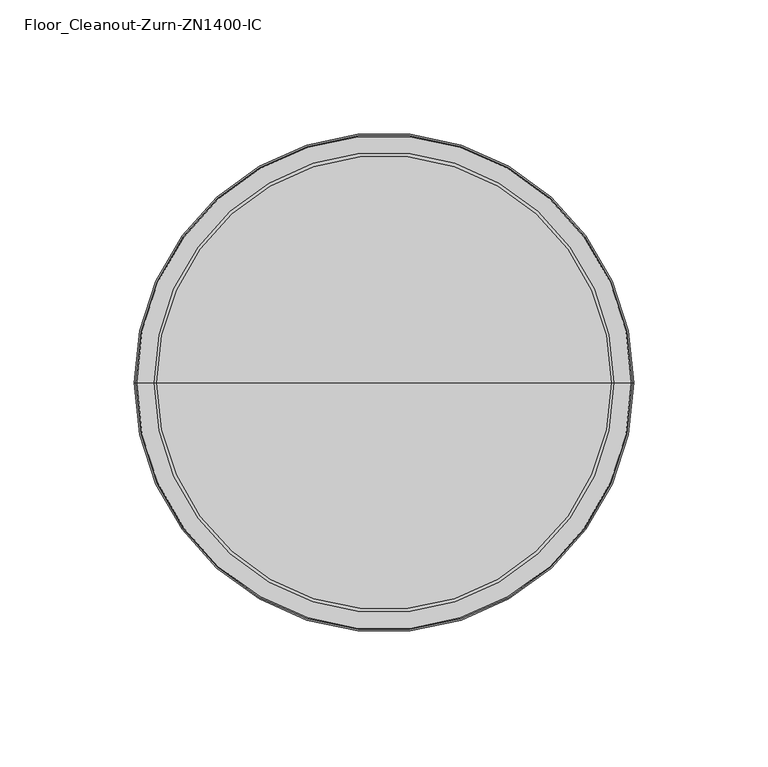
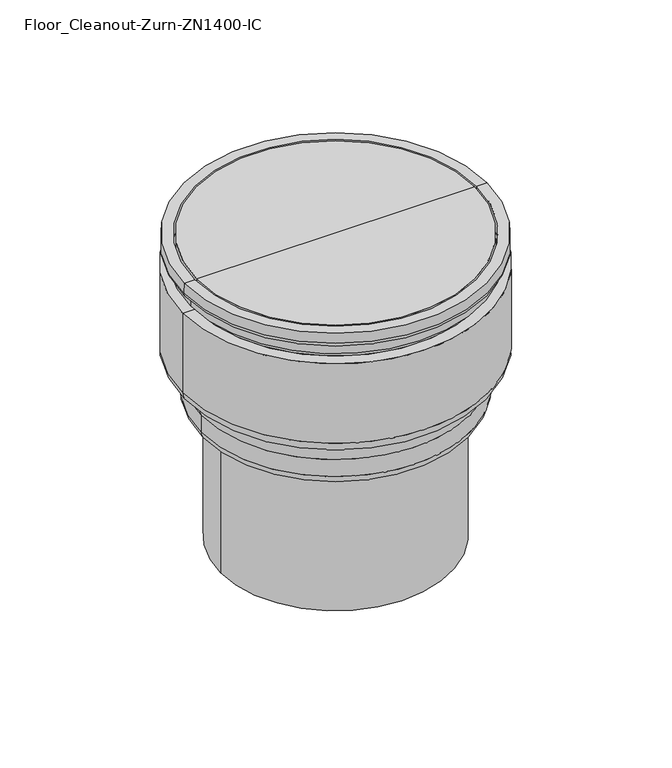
"""IFC4 building model written with IfcOpenShell, lengths in millimetres: flow terminal geometry."""

from ifc_helpers import new_model, si_unit, point, frame, origin, origin_with_axes, place, context, project, spatial, polyline, circle_curve, ellipse_curve, trimmed, source, transform, mapped, element, save
from ifc_brep_helpers import plane_surface, cylinder_surface, revolved_surface, advanced_brep


def floor_cleanout_zurn_zn1400_ic_d83c3ab9(model_context):
    return source(origin(), model_context, "Body", "AdvancedBrep", [
        advanced_brep(
        [(0.0, 0.0, 19.05), (84.46135, 0.0, 19.05), (-84.46135, 0.0, 19.05), (-84.46135, 0.0, 9.525), (84.46135, 0.0, 9.525), (0.0, 0.0, 9.525)],
        [
            (0, 1),
            (1, 2, circle_curve(frame((0.0, 0.0, 19.05), z_axis=(0.0, 0.0, 1.0), x_axis=(1.0, 0.0, 0.0)), 84.46135)),
            (2, 0),
            (2, 1, circle_curve(frame((0.0, 0.0, 19.05), z_axis=(0.0, 0.0, 1.0), x_axis=(1.0, 0.0, 0.0)), 84.46135)),
            (3, 4, circle_curve(frame((0.0, 0.0, 9.525), z_axis=(0.0, 0.0, -1.0), x_axis=(1.0, 0.0, 0.0)), 84.46135)),
            (4, 5),
            (5, 3),
            (4, 3, circle_curve(frame((0.0, 0.0, 9.525), z_axis=(0.0, 0.0, -1.0), x_axis=(1.0, 0.0, 0.0)), 84.46135)),
            (1, 4),
            (3, 2),
        ],
        [
            plane_surface(frame((0.0, 0.0, 19.05), z_axis=(0.0, 0.0, 1.0), x_axis=(1.0, 0.0, 0.0))),
            plane_surface(frame((0.0, 0.0, 9.525), z_axis=(0.0, 0.0, -1.0), x_axis=(1.0, 0.0, 0.0))),
            cylinder_surface(frame((0.0, 0.0, 19.05), z_axis=(0.0, 0.0, 1.0), x_axis=(1.0, 0.0, 0.0)), 84.46135),
        ],
        [
            (0, [[1, 2, 3]]),
            (0, [[-3, 4, -1]]),
            (1, [[5, 6, 7]]),
            (1, [[8, -7, -6]]),
            (2, [[-2, 9, -5, 10]]),
            (2, [[-4, -10, -8, -9]]),
        ],
    ),
        advanced_brep(
        [(-92.075, 0.0, 19.05), (92.075, 0.0, 19.05), (92.3358599, 0.0, 12.8331054), (-92.3358599, 0.0, 12.8331054), (-85.73135, 0.0, 19.05), (85.73135, 0.0, 19.05), (-69.85, 0.0, -174.625), (69.85, 0.0, -174.625), (0.0, 0.0, -174.625), (-69.85, 0.0, -86.176276), (69.85, 0.0, -86.176276), (-81.8556667, 0.0, -80.1696704), (81.8556667, 0.0, -80.1696704), (76.99375, 0.0, -86.176276), (-76.99375, 0.0, -86.176276), (-81.8556667, 0.0, -69.246216), (81.8556667, 0.0, -69.246216), (-85.250259, 0.0, -59.0685518), (85.250259, 0.0, -59.0685518), (-92.86875, 0.0, -51.1374649), (92.86875, 0.0, -51.1374649), (-92.86875, 0.0, 0.0), (92.86875, 0.0, 0.0), (-85.73135, 0.0, 0.0), (85.73135, 0.0, 0.0), (-85.73135, 0.0, 3.175), (85.73135, 0.0, 3.175), (-88.10625, 0.0, 3.175), (88.10625, 0.0, 3.175), (-88.10625, 0.0, 9.525), (88.10625, 0.0, 9.525), (-89.1636513, 0.0, 9.525), (89.1636513, 0.0, 9.525), (-85.73135, 0.0, 9.525), (85.73135, 0.0, 9.525), (0.0, 0.0, 9.525)],
        [
            (0, 1, circle_curve(frame((0.0, 0.0, 19.05), z_axis=(0.0, 0.0, -1.0), x_axis=(1.0, 0.0, 0.0)), 92.075)),
            (1, 2),
            (2, 3, circle_curve(frame((0.0, 0.0, 12.8331054), z_axis=(0.0, 0.0, 1.0), x_axis=(1.0, 0.0, 0.0)), 92.3358599)),
            (3, 0),
            (1, 0, circle_curve(frame((0.0, 0.0, 19.05), z_axis=(0.0, 0.0, -1.0), x_axis=(1.0, 0.0, 0.0)), 92.075)),
            (3, 2, circle_curve(frame((0.0, 0.0, 12.8331054), z_axis=(0.0, 0.0, 1.0), x_axis=(1.0, 0.0, 0.0)), 92.3358599)),
            (4, 5, circle_curve(frame((0.0, 0.0, 19.05), z_axis=(0.0, 0.0, -1.0), x_axis=(1.0, 0.0, 0.0)), 85.73135)),
            (5, 1),
            (0, 4),
            (5, 4, circle_curve(frame((0.0, 0.0, 19.05), z_axis=(0.0, 0.0, -1.0), x_axis=(1.0, 0.0, 0.0)), 85.73135)),
            (6, 7, circle_curve(frame((0.0, 0.0, -174.625), z_axis=(0.0, 0.0, -1.0), x_axis=(1.0, 0.0, 0.0)), 69.85)),
            (7, 8),
            (8, 6),
            (7, 6, circle_curve(frame((0.0, 0.0, -174.625), z_axis=(0.0, 0.0, -1.0), x_axis=(1.0, 0.0, 0.0)), 69.85)),
            (9, 10, circle_curve(frame((0.0, 0.0, -86.176276), z_axis=(0.0, 0.0, -1.0), x_axis=(1.0, 0.0, 0.0)), 69.85)),
            (10, 7),
            (6, 9),
            (10, 9, circle_curve(frame((0.0, 0.0, -86.176276), z_axis=(0.0, 0.0, -1.0), x_axis=(1.0, 0.0, 0.0)), 69.85)),
            (11, 12, circle_curve(frame((0.0, 0.0, -80.1696704), z_axis=(0.0, 0.0, -1.0), x_axis=(1.0, 0.0, 0.0)), 81.8556667)),
            (12, 13, circle_curve(frame((75.5130094, 0.0, -80.0067333), z_axis=(0.0, 1.0, 0.0), x_axis=(1.0, 0.0, 0.0)), 6.3447498)),
            (13, 14, circle_curve(frame((0.0, 0.0, -86.176276), z_axis=(0.0, 0.0, 1.0), x_axis=(1.0, 0.0, 0.0)), 76.99375)),
            (14, 11, circle_curve(frame((-75.5130094, 0.0, -80.0067333), z_axis=(0.0, 1.0, 0.0), x_axis=(-1.0, 0.0, 0.0)), 6.3447498)),
            (12, 11, circle_curve(frame((0.0, 0.0, -80.1696704), z_axis=(0.0, 0.0, -1.0), x_axis=(1.0, 0.0, 0.0)), 81.8556667)),
            (14, 13, circle_curve(frame((0.0, 0.0, -86.176276), z_axis=(0.0, 0.0, 1.0), x_axis=(1.0, 0.0, 0.0)), 76.99375)),
            (15, 16, circle_curve(frame((0.0, 0.0, -69.246216), z_axis=(0.0, 0.0, -1.0), x_axis=(1.0, 0.0, 0.0)), 81.8556667)),
            (16, 12),
            (11, 15),
            (16, 15, circle_curve(frame((0.0, 0.0, -69.246216), z_axis=(0.0, 0.0, -1.0), x_axis=(1.0, 0.0, 0.0)), 81.8556667)),
            (17, 18, circle_curve(frame((0.0, 0.0, -59.0685518), z_axis=(0.0, 0.0, -1.0), x_axis=(1.0, 0.0, 0.0)), 85.250259)),
            (18, 16),
            (15, 17),
            (18, 17, circle_curve(frame((0.0, 0.0, -59.0685518), z_axis=(0.0, 0.0, -1.0), x_axis=(1.0, 0.0, 0.0)), 85.250259)),
            (19, 20, circle_curve(frame((0.0, 0.0, -51.1374649), z_axis=(0.0, 0.0, -1.0), x_axis=(1.0, 0.0, 0.0)), 92.86875)),
            (20, 18, circle_curve(frame((84.93125, 0.0, -51.1374649), z_axis=(0.0, 1.0, 0.0), x_axis=(1.0, 0.0, 0.0)), 7.9375)),
            (17, 19, circle_curve(frame((-84.93125, 0.0, -51.1374649), z_axis=(0.0, 1.0, 0.0), x_axis=(-1.0, 0.0, 0.0)), 7.9375)),
            (20, 19, circle_curve(frame((0.0, 0.0, -51.1374649), z_axis=(0.0, 0.0, -1.0), x_axis=(1.0, 0.0, 0.0)), 92.86875)),
            (21, 22, circle_curve(frame((0.0, 0.0, 0.0), z_axis=(0.0, 0.0, -1.0), x_axis=(1.0, 0.0, 0.0)), 92.86875)),
            (22, 20),
            (19, 21),
            (22, 21, circle_curve(frame((0.0, 0.0, 0.0), z_axis=(0.0, 0.0, -1.0), x_axis=(1.0, 0.0, 0.0)), 92.86875)),
            (23, 24, circle_curve(frame((0.0, 0.0, 0.0), z_axis=(0.0, 0.0, -1.0), x_axis=(1.0, 0.0, 0.0)), 85.73135)),
            (24, 22),
            (21, 23),
            (24, 23, circle_curve(frame((0.0, 0.0, 0.0), z_axis=(0.0, 0.0, -1.0), x_axis=(1.0, 0.0, 0.0)), 85.73135)),
            (25, 26, circle_curve(frame((0.0, 0.0, 3.175), z_axis=(0.0, 0.0, -1.0), x_axis=(1.0, 0.0, 0.0)), 85.73135)),
            (26, 24),
            (23, 25),
            (26, 25, circle_curve(frame((0.0, 0.0, 3.175), z_axis=(0.0, 0.0, -1.0), x_axis=(1.0, 0.0, 0.0)), 85.73135)),
            (27, 28, circle_curve(frame((0.0, 0.0, 3.175), z_axis=(0.0, 0.0, -1.0), x_axis=(1.0, 0.0, 0.0)), 88.10625)),
            (28, 26),
            (25, 27),
            (28, 27, circle_curve(frame((0.0, 0.0, 3.175), z_axis=(0.0, 0.0, -1.0), x_axis=(1.0, 0.0, 0.0)), 88.10625)),
            (29, 30, circle_curve(frame((0.0, 0.0, 9.525), z_axis=(0.0, 0.0, -1.0), x_axis=(1.0, 0.0, 0.0)), 88.10625)),
            (30, 28),
            (27, 29),
            (30, 29, circle_curve(frame((0.0, 0.0, 9.525), z_axis=(0.0, 0.0, -1.0), x_axis=(1.0, 0.0, 0.0)), 88.10625)),
            (31, 32, circle_curve(frame((0.0, 0.0, 9.525), z_axis=(0.0, 0.0, -1.0), x_axis=(1.0, 0.0, 0.0)), 89.1636513)),
            (32, 30),
            (29, 31),
            (32, 31, circle_curve(frame((0.0, 0.0, 9.525), z_axis=(0.0, 0.0, -1.0), x_axis=(1.0, 0.0, 0.0)), 89.1636513)),
            (2, 32, circle_curve(frame((89.1636513, 0.0, 12.7), z_axis=(0.0, 1.0, 0.0), x_axis=(1.0, 0.0, 0.0)), 3.175)),
            (31, 3, circle_curve(frame((-89.1636513, 0.0, 12.7), z_axis=(0.0, 1.0, 0.0), x_axis=(-1.0, 0.0, 0.0)), 3.175)),
            (13, 10),
            (9, 14),
            (33, 34, circle_curve(frame((0.0, 0.0, 9.525), z_axis=(0.0, 0.0, -1.0), x_axis=(1.0, 0.0, 0.0)), 85.73135)),
            (34, 5),
            (4, 33),
            (34, 33, circle_curve(frame((0.0, 0.0, 9.525), z_axis=(0.0, 0.0, -1.0), x_axis=(1.0, 0.0, 0.0)), 85.73135)),
            (35, 34),
            (33, 35),
        ],
        [
            revolved_surface(polyline([(92.3358599, 0.0, 12.8331054), (92.075, 0.0, 19.05)]), (0.0, 0.0, 2307.1347694), (0.0, 0.0, 1.0)),
            plane_surface(frame((0.0, 0.0, 19.05), z_axis=(0.0, 0.0, 1.0), x_axis=(1.0, 0.0, 0.0))),
            plane_surface(frame((0.0, 0.0, -174.625), z_axis=(0.0, 0.0, -1.0), x_axis=(1.0, 0.0, 0.0))),
            cylinder_surface(frame((0.0, 0.0, 2307.1347694), z_axis=(0.0, 0.0, 1.0), x_axis=(1.0, 0.0, 0.0)), 69.85),
            revolved_surface(trimmed(ellipse_curve(frame((75.5130094, 0.0, -80.0067333), z_axis=(0.0, -1.0, 0.0), x_axis=(1.0, 0.0, 0.0)), 6.3447498, 6.3447498), [point((76.99375, 0.0, -86.176276))], [point((81.8556667, 0.0, -80.1696704))], True, "CARTESIAN"), (0.0, 0.0, 2307.1347694), (0.0, 0.0, 1.0)),
            cylinder_surface(frame((0.0, 0.0, 2307.1347694), z_axis=(0.0, 0.0, 1.0), x_axis=(1.0, 0.0, 0.0)), 81.8556667),
            revolved_surface(polyline([(81.8556667, 0.0, -69.246216), (85.250259, 0.0, -59.0685518)]), (0.0, 0.0, 2307.1347694), (0.0, 0.0, 1.0)),
            revolved_surface(trimmed(ellipse_curve(frame((84.93125, 0.0, -51.1374649), z_axis=(0.0, -1.0, 0.0), x_axis=(1.0, 0.0, 0.0)), 7.9375, 7.9375), [point((85.250259, 0.0, -59.0685518))], [point((92.86875, 0.0, -51.1374649))], True, "CARTESIAN"), (0.0, 0.0, 2307.1347694), (0.0, 0.0, 1.0)),
            cylinder_surface(frame((0.0, 0.0, 2307.1347694), z_axis=(0.0, 0.0, 1.0), x_axis=(1.0, 0.0, 0.0)), 92.86875),
            plane_surface(origin_with_axes()),
            cylinder_surface(frame((0.0, 0.0, 2307.1347694), z_axis=(0.0, 0.0, 1.0), x_axis=(1.0, 0.0, 0.0)), 85.73135),
            plane_surface(frame((0.0, 0.0, 3.175), z_axis=(0.0, 0.0, -1.0), x_axis=(1.0, 0.0, 0.0))),
            cylinder_surface(frame((0.0, 0.0, 2307.1347694), z_axis=(0.0, 0.0, 1.0), x_axis=(1.0, 0.0, 0.0)), 88.10625),
            plane_surface(frame((0.0, 0.0, 9.525), z_axis=(0.0, 0.0, -1.0), x_axis=(1.0, 0.0, 0.0))),
            revolved_surface(trimmed(ellipse_curve(frame((89.1636513, 0.0, 12.7), z_axis=(0.0, -1.0, 0.0), x_axis=(1.0, 0.0, 0.0)), 3.175, 3.175), [point((89.1636513, 0.0, 9.525))], [point((92.3358599, 0.0, 12.8331054))], True, "CARTESIAN"), (0.0, 0.0, 2307.1347694), (0.0, 0.0, 1.0)),
            plane_surface(frame((0.0, 0.0, -86.176276), z_axis=(0.0, 0.0, -1.0), x_axis=(1.0, 0.0, 0.0))),
            revolved_surface(polyline([(85.73135, 0.0, 19.050000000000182), (85.73135, 0.0, 9.525000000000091)]), (0.0, 0.0, 2307.1347694), (0.0, 0.0, 1.0)),
            plane_surface(frame((0.0, 0.0, 9.525), z_axis=(0.0, 0.0, 1.0), x_axis=(1.0, 0.0, 0.0))),
        ],
        [
            (0, [[1, 2, 3, 4]]),
            (0, [[5, -4, 6, -2]]),
            (1, [[7, 8, -1, 9]]),
            (1, [[10, -9, -5, -8]]),
            (2, [[11, 12, 13]]),
            (2, [[14, -13, -12]]),
            (3, [[15, 16, -11, 17]]),
            (3, [[18, -17, -14, -16]]),
            (4, [[19, 20, 21, 22]]),
            (4, [[23, -22, 24, -20]]),
            (5, [[25, 26, -19, 27]]),
            (5, [[28, -27, -23, -26]]),
            (6, [[29, 30, -25, 31]]),
            (6, [[32, -31, -28, -30]]),
            (7, [[33, 34, -29, 35]]),
            (7, [[36, -35, -32, -34]]),
            (8, [[37, 38, -33, 39]]),
            (8, [[40, -39, -36, -38]]),
            (9, [[41, 42, -37, 43]]),
            (9, [[44, -43, -40, -42]]),
            (10, [[45, 46, -41, 47]]),
            (10, [[48, -47, -44, -46]]),
            (11, [[49, 50, -45, 51]]),
            (11, [[52, -51, -48, -50]]),
            (12, [[53, 54, -49, 55]]),
            (12, [[56, -55, -52, -54]]),
            (13, [[57, 58, -53, 59]]),
            (13, [[60, -59, -56, -58]]),
            (14, [[-3, 61, -57, 62]]),
            (14, [[-6, -62, -60, -61]]),
            (15, [[-21, 63, -15, 64]]),
            (15, [[-24, -64, -18, -63]]),
            (16, [[65, 66, -7, 67]]),
            (16, [[68, -67, -10, -66]]),
            (17, [[69, -65, 70]]),
            (17, [[-70, -68, -69]]),
        ],
    ),
    ])


if __name__ == "__main__":
    model = new_model("IFC4")
    model_context = context("Model", 3, world=origin())
    ifc_project = project(units=[si_unit("LENGTHUNIT", "METRE", prefix="MILLI")], contexts=[model_context])
    site = spatial("IfcSite", under=ifc_project)
    building = spatial("IfcBuilding", under=site)
    placement = place(None, origin())
    floor_cleanout_zurn_zn1400_ic_shape = floor_cleanout_zurn_zn1400_ic_d83c3ab9(model_context)
    element("IfcFlowTerminal", 1, ObjectType="Floor_Cleanout-Zurn-ZN1400-IC : 7-1/4\" x 9-1/8\" x D4\"", at=placement, inside=building, context=model_context, shape_type="MappedRepresentation", body=[
        mapped(floor_cleanout_zurn_zn1400_ic_shape, transform((0.0, 0.0, 0.0), x_axis=(1.0, 0.0, 0.0), y_axis=(0.0, 1.0, 0.0), z_axis=(0.0, 0.0, 1.0))),
    ])
    save(model, "model.ifc")
